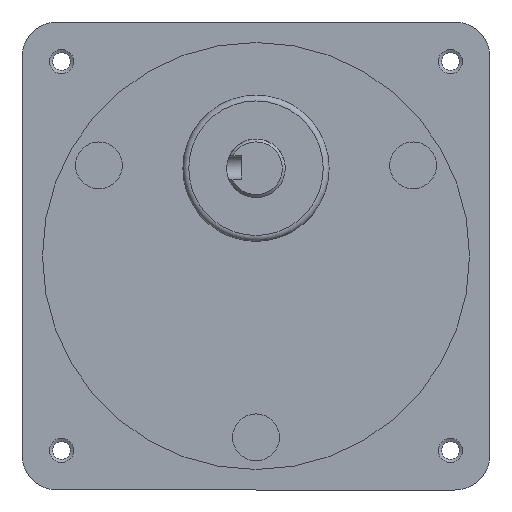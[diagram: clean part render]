
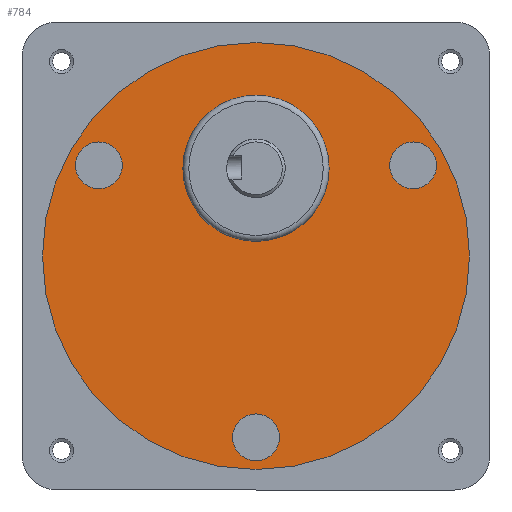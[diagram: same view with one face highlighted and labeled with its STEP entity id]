
A CAD part, front view. The second image highlights one B-rep face of the part: STEP entity #784.
In plain terms, the highlighted planar face has unit normal (0, -1, 0).
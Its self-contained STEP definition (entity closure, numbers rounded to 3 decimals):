
#644=CARTESIAN_POINT('',(24.847,0.5,18.964));
#645=VERTEX_POINT('',#644);
#646=CARTESIAN_POINT('',(26.847,0.5,15.5));
#647=DIRECTION('',(0.0,1.0,0.0));
#648=DIRECTION('',(0.5,0.0,-0.866));
#649=AXIS2_PLACEMENT_3D('',#646,#647,#648);
#650=CIRCLE('',#649,4.);
#651=EDGE_CURVE('',#645,#645,#650,.T.);
#681=CARTESIAN_POINT('',(-28.847,0.5,12.036));
#682=VERTEX_POINT('',#681);
#683=CARTESIAN_POINT('',(-26.847,0.5,15.5));
#684=DIRECTION('',(0.0,1.,0.0));
#685=DIRECTION('',(0.5,0.0,0.866));
#686=AXIS2_PLACEMENT_3D('',#683,#684,#685);
#687=CIRCLE('',#686,4.0);
#688=EDGE_CURVE('',#682,#682,#687,.T.);
#718=CARTESIAN_POINT('',(4.0,0.5,-31.0));
#719=VERTEX_POINT('',#718);
#720=CARTESIAN_POINT('',(0.0,0.5,-31.0));
#721=DIRECTION('',(0.0,1.0,0.0));
#722=DIRECTION('',(-1.0,0.0,0.0));
#723=AXIS2_PLACEMENT_3D('',#720,#721,#722);
#724=CIRCLE('',#723,4.0);
#725=EDGE_CURVE('',#719,#719,#724,.T.);
#744=CARTESIAN_POINT('',(36.5,0.5,0.));
#745=VERTEX_POINT('',#744);
#746=CARTESIAN_POINT('',(0.0,0.5,0.0));
#747=DIRECTION('',(0.0,-1.0,0.0));
#748=DIRECTION('',(-1.0,0.0,0.0));
#749=AXIS2_PLACEMENT_3D('',#746,#747,#748);
#750=CIRCLE('',#749,36.5);
#751=EDGE_CURVE('',#745,#745,#750,.T.);
#767=CARTESIAN_POINT('',(0.0,0.5,0.0));
#768=DIRECTION('',(0.0,1.0,0.0));
#769=DIRECTION('',(0.0,0.0,1.0));
#770=AXIS2_PLACEMENT_3D('',#767,#768,#769);
#771=PLANE('',#770);
#772=ORIENTED_EDGE('',*,*,#751,.T.);
#773=EDGE_LOOP('',(#772));
#774=FACE_OUTER_BOUND('',#773,.T.);
#775=ORIENTED_EDGE('',*,*,#651,.T.);
#776=EDGE_LOOP('',(#775));
#777=FACE_BOUND('',#776,.T.);
#778=ORIENTED_EDGE('',*,*,#688,.T.);
#779=EDGE_LOOP('',(#778));
#780=FACE_BOUND('',#779,.T.);
#781=ORIENTED_EDGE('',*,*,#725,.T.);
#782=EDGE_LOOP('',(#781));
#783=FACE_BOUND('',#782,.T.);
#784=ADVANCED_FACE('',(#774,#777,#780,#783),#771,.F.);
